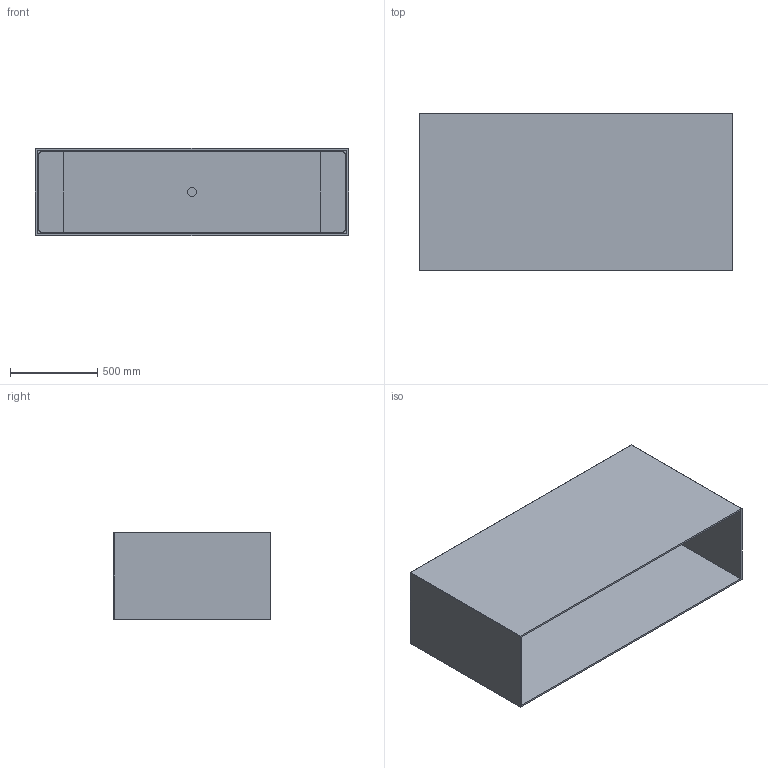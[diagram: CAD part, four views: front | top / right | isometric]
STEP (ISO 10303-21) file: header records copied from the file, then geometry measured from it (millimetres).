
FILE_DESCRIPTION (( 'STEP AP214' ), '1' );
FILE_NAME ('PB-washbasin-180x50-2B-monolith.STEP', '2018-12-04T11:13:37', ( '' ), ( '' ), 'SwSTEP 2.0', 'SolidWorks 2018', '' );
FILE_SCHEMA (( 'AUTOMOTIVE_DESIGN' ));
Length unit declared in the file: millimetre
Products named in the file (1): PB-washbasin-180x50-2B-monolith
Bounding box: 1800 x 900 x 500 mm (x, y, z)
Volume: 55261211.2 mm3; surface area: 11105671.1 mm2
Topology: 2 solids, 2 shells, 73 faces, 182 edges, 112 vertices
Faces by surface type: plane 51, cylinder 14, cone 8
Entity records: 2151 total; most frequent: CARTESIAN_POINT 364, DIRECTION 358, ORIENTED_EDGE 356, EDGE_CURVE 178, LINE 146, VECTOR 146, VERTEX_POINT 112, AXIS2_PLACEMENT_3D 106
